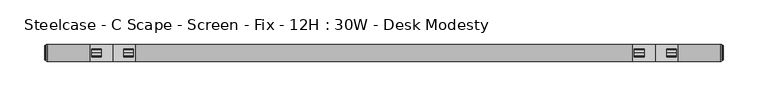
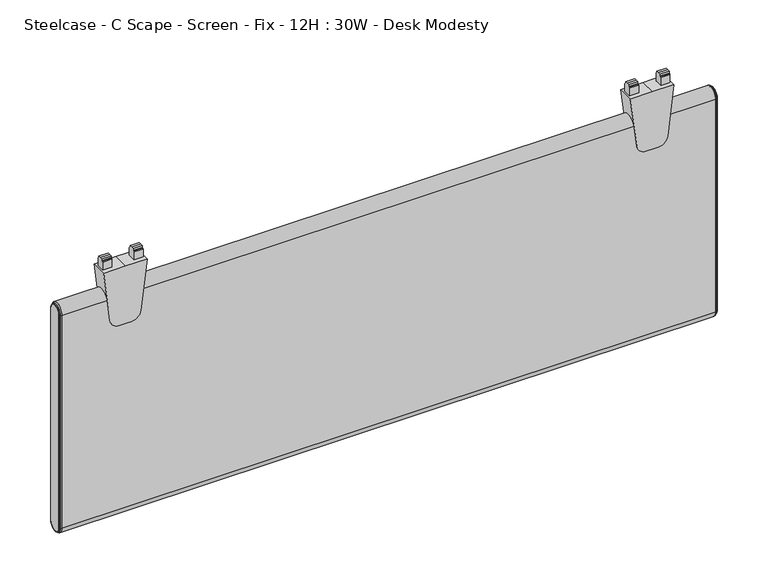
"""IFC4 building model written with IfcOpenShell, lengths in millimetres: furniture geometry, Steelcase - C Scape - Screen - Fix - 12H : 30W - Desk Modesty."""

from ifc_helpers import new_model, si_unit, point, frame, frame_2d, origin, place, context, project, spatial, polyline, circle_curve, ellipse_curve, trimmed, segment, composite_curve, outline, extrude, source, transform, mapped, element, save
from ifc_brep_helpers import plane_surface, cylinder_surface, revolved_surface, advanced_brep


def steelcase_c_scape_screen_fix_12h_30w_desk_modesty_b1b34149(model_context):
    return source(origin(), model_context, "Body", "SolidModel", [
        extrude(outline(composite_curve([segment(polyline([(703.414888, 101.4730434), (703.414888, 76.2001674), (703.414888, 50.9272915), (643.0897579, 58.3341853)]), True, "CONTINUOUS"), segment(trimmed(circle_curve(frame_2d((644.4116282, 69.1001018)), 10.8467645), [point((643.0897579, 58.3341853))], [point((633.5648638, 69.1001018))], False, "CARTESIAN"), True, "CONTINUOUS"), segment(polyline([(633.5648638, 69.1001018), (633.5648638, 76.2001674), (633.5648638, 83.300233)]), True, "CONTINUOUS"), segment(trimmed(circle_curve(frame_2d((644.4116282, 83.300233)), 10.8467645), [point((633.5648638, 83.300233))], [point((643.0897579, 94.0661495))], False, "CARTESIAN"), True, "CONTINUOUS"), segment(polyline([(643.0897579, 94.0661495), (703.414888, 101.4730434)]), True, "CONTINUOUS")], self_intersect=False)), frame((0.0, -9.525, 0.0), z_axis=(0.0, 1.0, 0.0), x_axis=(0.0, 0.0, 1.0)), (0.0, 0.0, 1.0), 19.05),
        extrude(outline(polyline([(-4.5465975, 703.414888), (-4.5465975, 713.3208967), (-4.0139265, 714.2073252), (-2.9972008, 714.2073252), (-2.9972008, 716.4425812), (0.0, 716.534), (2.9972008, 716.4425812), (2.9972008, 714.2073252), (4.0139265, 714.2073252), (4.5465975, 713.3208967), (4.5465975, 703.414888), (0.0, 703.414888), (-4.5465975, 703.414888)])), frame((88.9267162, 0.0, 0.0), z_axis=(1.0, 0.0, 0.0), x_axis=(0.0, 1.0, 0.0)), (0.0, 0.0, 1.0), 10.7813187),
        extrude(outline(polyline([(-4.5465975, 703.414888), (-4.5465975, 713.3208967), (-4.0139265, 714.2073252), (-2.9972008, 714.2073252), (-2.9972008, 716.4425812), (0.0, 716.534), (2.9972008, 716.4425812), (2.9972008, 714.2073252), (4.0139265, 714.2073252), (4.5465975, 713.3208967), (4.5465975, 703.414888), (0.0, 703.414888), (-4.5465975, 703.414888)])), frame((52.6923, 0.0, 0.0), z_axis=(1.0, 0.0, 0.0), x_axis=(0.0, 1.0, 0.0)), (0.0, 0.0, 1.0), 10.7813187),
        extrude(outline(composite_curve([segment(polyline([(703.414888, 710.3107132), (703.414888, 685.0378372), (703.414888, 659.7649612), (643.0897579, 667.1718551)]), True, "CONTINUOUS"), segment(trimmed(circle_curve(frame_2d((644.4116282, 677.9377716)), 10.8467645), [point((643.0897579, 667.1718551))], [point((633.5648638, 677.9377716))], False, "CARTESIAN"), True, "CONTINUOUS"), segment(polyline([(633.5648638, 677.9377716), (633.5648638, 685.0378372), (633.5648638, 692.1379028)]), True, "CONTINUOUS"), segment(trimmed(circle_curve(frame_2d((644.4116282, 692.1379028)), 10.8467645), [point((633.5648638, 692.1379028))], [point((643.0897579, 702.9038193))], False, "CARTESIAN"), True, "CONTINUOUS"), segment(polyline([(643.0897579, 702.9038193), (703.414888, 710.3107132)]), True, "CONTINUOUS")], self_intersect=False)), frame((0.0, -9.525, 0.0), z_axis=(0.0, 1.0, 0.0), x_axis=(0.0, 0.0, 1.0)), (0.0, 0.0, 1.0), 19.05),
        extrude(outline(polyline([(-4.5465975, 703.414888), (-4.5465975, 713.3208967), (-4.0139265, 714.2073252), (-2.9972008, 714.2073252), (-2.9972008, 716.4425812), (0.0, 716.534), (2.9972008, 716.4425812), (2.9972008, 714.2073252), (4.0139265, 714.2073252), (4.5465975, 713.3208967), (4.5465975, 703.414888), (0.0, 703.414888), (-4.5465975, 703.414888)])), frame((697.764386, 0.0, 0.0), z_axis=(1.0, 0.0, 0.0), x_axis=(0.0, 1.0, 0.0)), (0.0, 0.0, 1.0), 10.7813187),
        extrude(outline(polyline([(-4.5465975, 703.414888), (-4.5465975, 713.3208967), (-4.0139265, 714.2073252), (-2.9972008, 714.2073252), (-2.9972008, 716.4425812), (0.0, 716.534), (2.9972008, 716.4425812), (2.9972008, 714.2073252), (4.0139265, 714.2073252), (4.5465975, 713.3208967), (4.5465975, 703.414888), (0.0, 703.414888), (-4.5465975, 703.414888)])), frame((661.5299698, 0.0, 0.0), z_axis=(1.0, 0.0, 0.0), x_axis=(0.0, 1.0, 0.0)), (0.0, 0.0, 1.0), 10.7813187),
        advanced_brep(
        [(758.4486613, -9.525, 668.909), (758.4486613, 9.525, 668.909), (758.4486613, 9.525, 408.559), (758.4486613, -9.525, 408.559), (761.2426613, 7.4929583, 668.909), (761.2426613, -7.4929583, 668.909), (761.2426613, -7.4929583, 408.559), (761.2426613, 7.4929583, 408.559), (760.7346545, -8.0009651, 668.909), (760.7346545, 8.0009651, 668.909), (759.4646613, 8.0009651, 668.909), (759.4646613, -8.0009651, 668.909), (759.4646613, -8.8204932, 668.909), (759.4646613, 8.8204932, 668.909), (759.4646613, -8.0009651, 408.559), (760.7346545, -8.0009651, 408.559), (759.4646613, -8.8204932, 408.559), (759.4646613, 8.0009651, 408.559), (760.7346545, 8.0009651, 408.559), (759.4646613, 8.8204932, 408.559)],
        [
            (0, 1, circle_curve(frame((758.4486613, 0.0, 668.909), z_axis=(-1.0, 0.0, 0.0), x_axis=(0.0, 1.0, 0.0)), 9.525)),
            (1, 2),
            (2, 3, circle_curve(frame((758.4486613, 0.0, 408.559), z_axis=(-1.0, 0.0, 0.0), x_axis=(0.0, -1.0, 0.0)), 9.525)),
            (3, 0),
            (4, 5, circle_curve(frame((761.2426613, 0.0, 668.909), z_axis=(1.0, 0.0, 0.0), x_axis=(0.0, 1.0, 0.0)), 7.4929583)),
            (5, 6),
            (6, 7, circle_curve(frame((761.2426613, 0.0, 408.559), z_axis=(1.0, 0.0, 0.0), x_axis=(0.0, -1.0, 0.0)), 7.4929583)),
            (7, 4),
            (8, 9, circle_curve(frame((760.7346545, 0.0, 668.909), z_axis=(-1.0, 0.0, 0.0), x_axis=(0.0, 1.0, 0.0)), 8.0009651)),
            (9, 10),
            (10, 11, circle_curve(frame((759.4646613, 0.0, 668.909), z_axis=(1.0, 0.0, 0.0), x_axis=(0.0, 1.0, 0.0)), 8.0009651)),
            (11, 8),
            (8, 5, circle_curve(frame((760.7346545, -7.4929583, 668.909), z_axis=(0.0, 0.0, 1.0), x_axis=(0.0, -1.0, 0.0)), 0.5080068)),
            (4, 9, circle_curve(frame((760.7346545, 7.4929583, 668.909), z_axis=(0.0, 0.0, 1.0), x_axis=(0.0, 1.0, 0.0)), 0.5080068)),
            (12, 13, circle_curve(frame((759.4646613, 0.0, 668.909), z_axis=(-1.0, 0.0, 0.0), x_axis=(0.0, 1.0, 0.0)), 8.8204932)),
            (13, 1, circle_curve(frame((758.3806211, 8.3420139, 668.909), z_axis=(0.0, 0.0, 1.0), x_axis=(0.0, 1.0, 0.0)), 1.1849411)),
            (0, 12, circle_curve(frame((758.3806211, -8.3420139, 668.909), z_axis=(0.0, 0.0, 1.0), x_axis=(0.0, -1.0, 0.0)), 1.1849411)),
            (11, 14),
            (14, 15),
            (15, 8),
            (15, 6, circle_curve(frame((760.7346545, -7.4929583, 408.559), z_axis=(0.0, 0.0, 1.0), x_axis=(0.0, -1.0, 0.0)), 0.5080068)),
            (3, 16, circle_curve(frame((758.3806211, -8.3420139, 408.559), z_axis=(0.0, 0.0, 1.0), x_axis=(0.0, -1.0, 0.0)), 1.1849411)),
            (16, 12),
            (14, 17, circle_curve(frame((759.4646613, 0.0, 408.559), z_axis=(1.0, 0.0, 0.0), x_axis=(0.0, -1.0, 0.0)), 8.0009651)),
            (17, 18),
            (18, 15, circle_curve(frame((760.7346545, 0.0, 408.559), z_axis=(-1.0, 0.0, 0.0), x_axis=(0.0, -1.0, 0.0)), 8.0009651)),
            (18, 7, circle_curve(frame((760.7346545, 7.4929583, 408.559), z_axis=(0.0, 0.0, -1.0), x_axis=(0.0, 1.0, 0.0)), 0.5080068)),
            (2, 19, circle_curve(frame((758.3806211, 8.3420139, 408.559), z_axis=(0.0, 0.0, -1.0), x_axis=(0.0, 1.0, 0.0)), 1.1849411)),
            (19, 16, circle_curve(frame((759.4646613, 0.0, 408.559), z_axis=(-1.0, 0.0, 0.0), x_axis=(0.0, -1.0, 0.0)), 8.8204932)),
            (9, 18),
            (17, 10),
            (13, 19),
        ],
        [
            plane_surface(frame((758.4486613, -6.3509705, 668.909), z_axis=(-1.0, 0.0, 0.0), x_axis=(0.0, 0.0, 1.0))),
            plane_surface(frame((761.2426613, -6.3509705, 668.909), z_axis=(1.0, 0.0, 0.0), x_axis=(0.0, 0.0, -1.0))),
            cylinder_surface(frame((758.4486613, 0.0, 668.909), z_axis=(1.0, 0.0, 0.0), x_axis=(0.0, 1.0, 0.0)), 8.0009651),
            revolved_surface(trimmed(ellipse_curve(frame((760.7346545, 7.4929583, 668.909), z_axis=(0.0, 0.0, -1.0), x_axis=(0.0, 1.0, 0.0)), 0.5080068, 0.5080068), [point((760.7346545, 8.0009651, 668.909))], [point((761.2426613, 7.4929583, 668.909))], True, "CARTESIAN"), (758.4486613, 0.0, 668.909), (1.0, 0.0, 0.0)),
            revolved_surface(trimmed(ellipse_curve(frame((758.3806211, 8.3420139, 668.909), z_axis=(0.0, 0.0, -1.0), x_axis=(0.0, 1.0, 0.0)), 1.1849411, 1.1849411), [point((758.4486613, 9.525, 668.909))], [point((759.4646613, 8.8204932, 668.909))], True, "CARTESIAN"), (758.4486613, 0.0, 668.909), (1.0, 0.0, 0.0)),
            plane_surface(frame((759.4646613, -8.0009651, 668.909), z_axis=(0.0, -1.0, 0.0), x_axis=(0.0, 0.0, -1.0))),
            cylinder_surface(frame((760.7346545, -7.4929583, 668.909), z_axis=(0.0, 0.0, 1.0), x_axis=(0.0, -1.0, 0.0)), 0.5080068),
            cylinder_surface(frame((758.3806211, -8.3420139, 668.909), z_axis=(0.0, 0.0, 1.0), x_axis=(0.0, -1.0, 0.0)), 1.1849411),
            cylinder_surface(frame((758.4486613, 0.0, 408.559), z_axis=(1.0, 0.0, 0.0), x_axis=(0.0, -1.0, 0.0)), 8.0009651),
            revolved_surface(trimmed(ellipse_curve(frame((760.7346545, -7.4929583, 408.559), z_axis=(0.0, 0.0, 1.0), x_axis=(0.0, -1.0, 0.0)), 0.5080068, 0.5080068), [point((760.7346545, -8.0009651, 408.559))], [point((761.2426613, -7.4929583, 408.559))], True, "CARTESIAN"), (758.4486613, 0.0, 408.559), (1.0, 0.0, 0.0)),
            revolved_surface(trimmed(ellipse_curve(frame((758.3806211, -8.3420139, 408.559), z_axis=(0.0, 0.0, 1.0), x_axis=(0.0, -1.0, 0.0)), 1.1849411, 1.1849411), [point((758.4486613, -9.525, 408.559))], [point((759.4646613, -8.8204932, 408.559))], True, "CARTESIAN"), (758.4486613, 0.0, 408.559), (1.0, 0.0, 0.0)),
            plane_surface(frame((759.4646613, 8.0009651, 408.559), z_axis=(0.0, 1.0, 0.0), x_axis=(0.0, 0.0, 1.0))),
            cylinder_surface(frame((760.7346545, 7.4929583, 408.559), z_axis=(0.0, 0.0, -1.0), x_axis=(0.0, 1.0, 0.0)), 0.5080068),
            cylinder_surface(frame((758.3806211, 8.3420139, 408.559), z_axis=(0.0, 0.0, -1.0), x_axis=(0.0, 1.0, 0.0)), 1.1849411),
            plane_surface(frame((759.4646613, 8.8204932, 408.559), z_axis=(1.0, 0.0, 0.0), x_axis=(0.0, 0.0, 1.0))),
        ],
        [
            (0, [[1, 2, 3, 4]]),
            (1, [[5, 6, 7, 8]]),
            (2, [[9, 10, 11, 12]]),
            (3, [[-9, 13, -5, 14]]),
            (4, [[15, 16, -1, 17]]),
            (5, [[-12, 18, 19, 20]]),
            (6, [[-13, -20, 21, -6]]),
            (7, [[-17, -4, 22, 23]]),
            (8, [[-19, 24, 25, 26]]),
            (9, [[-21, -26, 27, -7]]),
            (10, [[-22, -3, 28, 29]]),
            (11, [[-10, 30, -25, 31]]),
            (12, [[-14, -8, -27, -30]]),
            (13, [[-16, 32, -28, -2]]),
            (14, [[-15, -23, -29, -32], [-11, -31, -24, -18]]),
        ],
    ),
        advanced_brep(
        [(2.7940155, 9.525, 668.909), (2.7940155, -9.525, 668.909), (2.7940155, -9.525, 408.559), (2.7940155, 9.525, 408.559), (0.0, -7.4929583, 668.909), (0.0, 7.4929583, 668.909), (0.0, 7.4929583, 408.559), (0.0, -7.4929583, 408.559), (1.778, 8.8204932, 668.909), (1.778, -8.8204932, 668.909), (0.5080068, -8.0009651, 668.909), (0.5080068, 8.0009651, 668.909), (1.778, -8.0009651, 668.909), (1.778, 8.0009651, 668.909), (1.778, -8.8204932, 408.559), (0.5080068, -8.0009651, 408.559), (1.778, -8.0009651, 408.559), (1.778, 8.8204932, 408.559), (0.5080068, 8.0009651, 408.559), (1.778, 8.0009651, 408.559)],
        [
            (0, 1, circle_curve(frame((2.7940155, 0.0, 668.909), z_axis=(1.0, 0.0, 0.0), x_axis=(0.0, 1.0, 0.0)), 9.525)),
            (1, 2),
            (2, 3, circle_curve(frame((2.7940155, 0.0, 408.559), z_axis=(1.0, 0.0, 0.0), x_axis=(0.0, -1.0, 0.0)), 9.525)),
            (3, 0),
            (4, 5, circle_curve(frame((0.0, 0.0, 668.909), z_axis=(-1.0, 0.0, 0.0), x_axis=(0.0, 1.0, 0.0)), 7.4929583)),
            (5, 6),
            (6, 7, circle_curve(frame((0.0, 0.0, 408.559), z_axis=(-1.0, 0.0, 0.0), x_axis=(0.0, -1.0, 0.0)), 7.4929583)),
            (7, 4),
            (0, 8, circle_curve(frame((2.8620402, 8.3420139, 668.909), z_axis=(0.0, 0.0, 1.0), x_axis=(0.0, -1.0, 0.0)), 1.1849411)),
            (8, 9, circle_curve(frame((1.778, 0.0, 668.909), z_axis=(1.0, 0.0, 0.0), x_axis=(0.0, 1.0, 0.0)), 8.8204932)),
            (9, 1, circle_curve(frame((2.8620402, -8.3420139, 668.909), z_axis=(0.0, 0.0, 1.0), x_axis=(0.0, 1.0, 0.0)), 1.1849411)),
            (10, 11, circle_curve(frame((0.5080068, 0.0, 668.909), z_axis=(-1.0, 0.0, 0.0), x_axis=(0.0, 1.0, 0.0)), 8.0009651)),
            (11, 5, circle_curve(frame((0.5080068, 7.4929583, 668.909), z_axis=(0.0, 0.0, 1.0), x_axis=(0.0, -1.0, 0.0)), 0.5080068)),
            (4, 10, circle_curve(frame((0.5080068, -7.4929583, 668.909), z_axis=(0.0, 0.0, 1.0), x_axis=(0.0, 1.0, 0.0)), 0.5080068)),
            (10, 12),
            (12, 13, circle_curve(frame((1.778, 0.0, 668.909), z_axis=(-1.0, 0.0, 0.0), x_axis=(0.0, 1.0, 0.0)), 8.0009651)),
            (13, 11),
            (9, 14),
            (14, 2, circle_curve(frame((2.8620402, -8.3420139, 408.559), z_axis=(0.0, 0.0, 1.0), x_axis=(0.0, 1.0, 0.0)), 1.1849411)),
            (7, 15, circle_curve(frame((0.5080068, -7.4929583, 408.559), z_axis=(0.0, 0.0, 1.0), x_axis=(0.0, 1.0, 0.0)), 0.5080068)),
            (15, 10),
            (15, 16),
            (16, 12),
            (14, 17, circle_curve(frame((1.778, 0.0, 408.559), z_axis=(1.0, 0.0, 0.0), x_axis=(0.0, -1.0, 0.0)), 8.8204932)),
            (17, 3, circle_curve(frame((2.8620402, 8.3420139, 408.559), z_axis=(0.0, 0.0, -1.0), x_axis=(0.0, -1.0, 0.0)), 1.1849411)),
            (6, 18, circle_curve(frame((0.5080068, 7.4929583, 408.559), z_axis=(0.0, 0.0, -1.0), x_axis=(0.0, -1.0, 0.0)), 0.5080068)),
            (18, 15, circle_curve(frame((0.5080068, 0.0, 408.559), z_axis=(-1.0, 0.0, 0.0), x_axis=(0.0, -1.0, 0.0)), 8.0009651)),
            (18, 19),
            (19, 16, circle_curve(frame((1.778, 0.0, 408.559), z_axis=(-1.0, 0.0, 0.0), x_axis=(0.0, -1.0, 0.0)), 8.0009651)),
            (8, 17),
            (19, 13),
            (11, 18),
        ],
        [
            plane_surface(frame((2.7940155, -6.3509705, 668.909), z_axis=(1.0, 0.0, 0.0), x_axis=(0.0, 0.0, -1.0))),
            plane_surface(frame((0.0, -6.3509705, 668.909), z_axis=(-1.0, 0.0, 0.0), x_axis=(0.0, 0.0, 1.0))),
            revolved_surface(trimmed(ellipse_curve(frame((2.8620402, 8.3420139, 668.909), z_axis=(0.0, 0.0, -1.0), x_axis=(0.0, -1.0, 0.0)), 1.1849411, 1.1849411), [point((1.778, 8.8204932, 668.909))], [point((2.794, 9.525, 668.909))], True, "CARTESIAN"), (2.794, 0.0, 668.909), (1.0, 0.0, 0.0)),
            revolved_surface(trimmed(ellipse_curve(frame((0.5080068, 7.4929583, 668.909), z_axis=(0.0, 0.0, -1.0), x_axis=(0.0, -1.0, 0.0)), 0.5080068, 0.5080068), [point((0.0, 7.4929583, 668.909))], [point((0.5080068, 8.0009651, 668.909))], True, "CARTESIAN"), (2.794, 0.0, 668.909), (1.0, 0.0, 0.0)),
            cylinder_surface(frame((2.794, 0.0, 668.909), z_axis=(1.0, 0.0, 0.0), x_axis=(0.0, 1.0, 0.0)), 8.0009651),
            cylinder_surface(frame((2.8620402, -8.3420139, 668.909), z_axis=(0.0, 0.0, 1.0), x_axis=(0.0, 1.0, 0.0)), 1.1849411),
            cylinder_surface(frame((0.5080068, -7.4929583, 668.909), z_axis=(0.0, 0.0, 1.0), x_axis=(0.0, 1.0, 0.0)), 0.5080068),
            plane_surface(frame((0.5080068, -8.0009651, 668.909), z_axis=(0.0, -1.0, 0.0), x_axis=(0.0, 0.0, -1.0))),
            revolved_surface(trimmed(ellipse_curve(frame((2.8620402, -8.3420139, 408.559), z_axis=(0.0, 0.0, 1.0), x_axis=(0.0, 1.0, 0.0)), 1.1849411, 1.1849411), [point((1.778, -8.8204932, 408.559))], [point((2.794, -9.525, 408.559))], True, "CARTESIAN"), (2.794, 0.0, 408.559), (1.0, 0.0, 0.0)),
            revolved_surface(trimmed(ellipse_curve(frame((0.5080068, -7.4929583, 408.559), z_axis=(0.0, 0.0, 1.0), x_axis=(0.0, 1.0, 0.0)), 0.5080068, 0.5080068), [point((0.0, -7.4929583, 408.559))], [point((0.5080068, -8.0009651, 408.559))], True, "CARTESIAN"), (2.794, 0.0, 408.559), (1.0, 0.0, 0.0)),
            cylinder_surface(frame((2.794, 0.0, 408.559), z_axis=(1.0, 0.0, 0.0), x_axis=(0.0, -1.0, 0.0)), 8.0009651),
            plane_surface(frame((1.778, 8.0009651, 408.559), z_axis=(-1.0, 0.0, 0.0), x_axis=(0.0, 0.0, 1.0))),
            cylinder_surface(frame((2.8620402, 8.3420139, 408.559), z_axis=(0.0, 0.0, -1.0), x_axis=(0.0, -1.0, 0.0)), 1.1849411),
            cylinder_surface(frame((0.5080068, 7.4929583, 408.559), z_axis=(0.0, 0.0, -1.0), x_axis=(0.0, -1.0, 0.0)), 0.5080068),
            plane_surface(frame((0.5080068, 8.0009651, 408.559), z_axis=(0.0, 1.0, 0.0), x_axis=(0.0, 0.0, 1.0))),
        ],
        [
            (0, [[1, 2, 3, 4]]),
            (1, [[5, 6, 7, 8]]),
            (2, [[-1, 9, 10, 11]]),
            (3, [[12, 13, -5, 14]]),
            (4, [[-12, 15, 16, 17]]),
            (5, [[-11, 18, 19, -2]]),
            (6, [[-14, -8, 20, 21]]),
            (7, [[-15, -21, 22, 23]]),
            (8, [[-19, 24, 25, -3]]),
            (9, [[-20, -7, 26, 27]]),
            (10, [[-22, -27, 28, 29]]),
            (11, [[-10, 30, -24, -18], [-16, -23, -29, 31]]),
            (12, [[-9, -4, -25, -30]]),
            (13, [[-13, 32, -26, -6]]),
            (14, [[-17, -31, -28, -32]]),
        ],
    ),
        extrude(outline(composite_curve([segment(trimmed(circle_curve(frame_2d((0.0, 668.909)), 9.525), [point((-9.525, 668.909))], [point((9.525, 668.909))], False, "CARTESIAN"), True, "CONTINUOUS"), segment(polyline([(9.525, 668.909), (9.525, 408.559)]), True, "CONTINUOUS"), segment(trimmed(circle_curve(frame_2d((0.0, 408.559)), 9.525), [point((9.525, 408.559))], [point((-9.525, 408.559))], False, "CARTESIAN"), True, "CONTINUOUS"), segment(polyline([(-9.525, 408.559), (-9.525, 668.909)]), True, "CONTINUOUS")], self_intersect=False)), frame((2.794, 0.0, 0.0), z_axis=(1.0, 0.0, 0.0), x_axis=(0.0, 1.0, 0.0)), (0.0, 0.0, 1.0), 755.6546613),
    ])


if __name__ == "__main__":
    model = new_model("IFC4")
    model_context = context("Model", 3, world=origin())
    ifc_project = project(units=[si_unit("LENGTHUNIT", "METRE", prefix="MILLI")], contexts=[model_context])
    site = spatial("IfcSite", under=ifc_project)
    building = spatial("IfcBuilding", under=site)
    placement = place(None, origin())
    steelcase_c_scape_screen_fix_12h_30w_desk_modesty_shape = steelcase_c_scape_screen_fix_12h_30w_desk_modesty_b1b34149(model_context)
    element("IfcFurniture", 1, ObjectType="Steelcase - C Scape - Screen - Fix - 12H : 30W - Desk Modesty", at=placement, inside=building, context=model_context, shape_type="MappedRepresentation", body=[
        mapped(steelcase_c_scape_screen_fix_12h_30w_desk_modesty_shape, transform((0.0, 0.0, 0.0), x_axis=(1.0, 0.0, 0.0), y_axis=(0.0, 1.0, 0.0), z_axis=(0.0, 0.0, 1.0))),
    ])
    save(model, "model.ifc")
